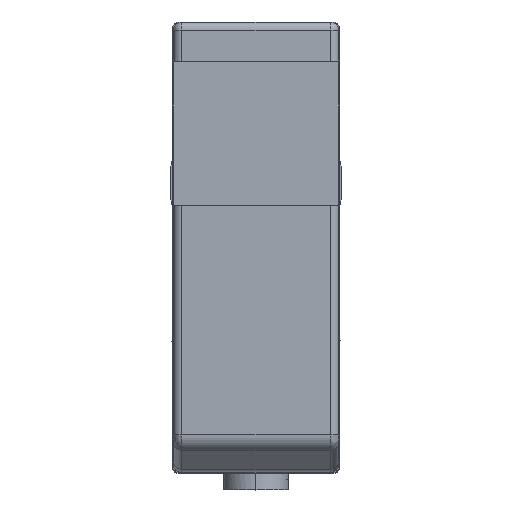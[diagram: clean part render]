
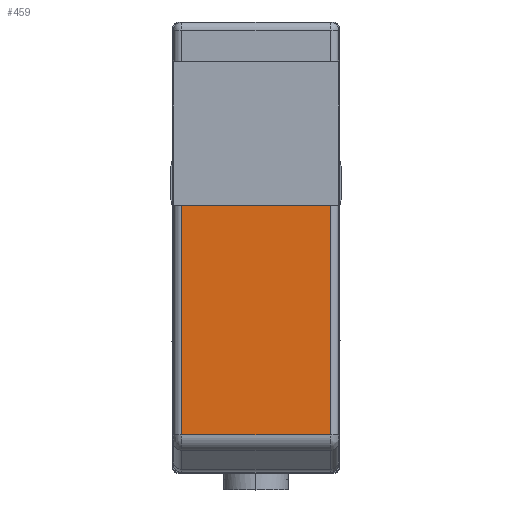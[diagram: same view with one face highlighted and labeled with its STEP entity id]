
A CAD part, top view. The second image highlights one B-rep face of the part: STEP entity #459.
In plain terms, the highlighted planar face has unit normal (0, 0, 1).
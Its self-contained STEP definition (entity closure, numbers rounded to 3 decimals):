
#459=ADVANCED_FACE('',(#2183),#2182,.F.);
#2182=PLANE('',#4104);
#2183=FACE_OUTER_BOUND('',#4105,.T.);
#4101=CARTESIAN_POINT('',(5.34,-26.133,27.4));
#4102=DIRECTION('',(0.,0.,-1.));
#4103=DIRECTION('',(-1.,0.,0.));
#4104=AXIS2_PLACEMENT_3D('',#4101,#4102,#4103);
#4105=EDGE_LOOP('',(#5443,#5444,#5445,#5446));
#5443=ORIENTED_EDGE('',*,*,#6153,.F.);
#5444=ORIENTED_EDGE('',*,*,#6210,.T.);
#5445=ORIENTED_EDGE('',*,*,#6298,.T.);
#5446=ORIENTED_EDGE('',*,*,#6233,.T.);
#6153=EDGE_CURVE('',#8325,#8332,#8333,.T.);
#6210=EDGE_CURVE('',#8325,#8714,#8721,.T.);
#6233=EDGE_CURVE('',#8852,#8332,#8871,.T.);
#6298=EDGE_CURVE('',#8714,#8852,#9297,.T.);
#8325=VERTEX_POINT('',#11776);
#8332=VERTEX_POINT('',#11781);
#8333=LINE('',#11782,#11783);
#8714=VERTEX_POINT('',#12020);
#8721=LINE('',#12025,#12026);
#8852=VERTEX_POINT('',#12108);
#8871=LINE('',#12121,#12122);
#9297=LINE('',#12366,#12367);
#11776=CARTESIAN_POINT('',(-4.45,-11.,27.4));
#11781=CARTESIAN_POINT('',(4.45,-11.,27.4));
#11782=CARTESIAN_POINT('',(-4.45,-11.,27.4));
#11783=VECTOR('',#11784,8.9);
#11784=DIRECTION('',(1.,0.,0.));
#12020=CARTESIAN_POINT('',(-4.45,-24.758,27.4));
#12025=CARTESIAN_POINT('',(-4.45,-11.,27.4));
#12026=VECTOR('',#12027,13.758);
#12027=DIRECTION('',(0.,-1.,0.));
#12108=CARTESIAN_POINT('',(4.45,-24.758,27.4));
#12121=CARTESIAN_POINT('',(4.45,-24.758,27.4));
#12122=VECTOR('',#12123,13.758);
#12123=DIRECTION('',(0.,1.,0.));
#12366=CARTESIAN_POINT('',(-4.45,-24.758,27.4));
#12367=VECTOR('',#12368,8.9);
#12368=DIRECTION('',(1.,0.,0.));
